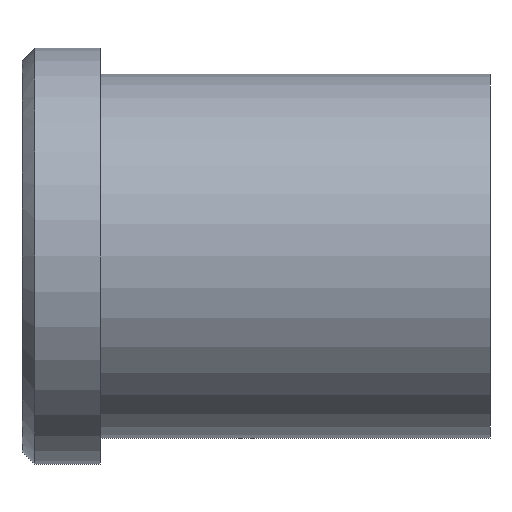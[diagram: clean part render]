
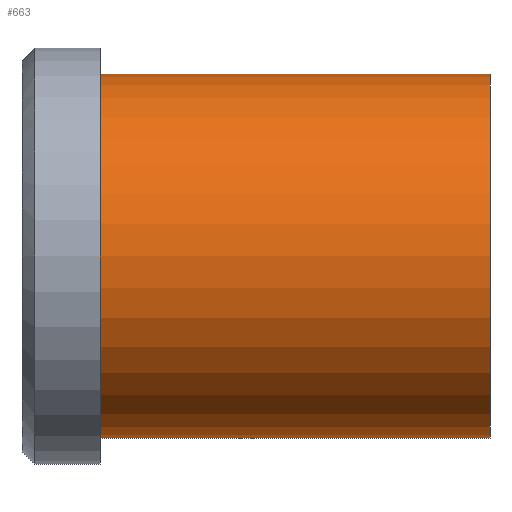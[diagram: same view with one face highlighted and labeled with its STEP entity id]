
A CAD part, front view. The second image highlights one B-rep face of the part: STEP entity #663.
In plain terms, the highlighted cylindrical face has radius 14 mm (diameter 28 mm), a partial arc.
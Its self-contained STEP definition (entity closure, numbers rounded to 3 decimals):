
#501=CARTESIAN_POINT('Vertex',(0.,0.,-14.)) ;
#506=CARTESIAN_POINT('Axis2P3D Location',(0.,0.,0.)) ;
#510=CARTESIAN_POINT('Vertex',(0.,-14.,0.)) ;
#513=CARTESIAN_POINT('Axis2P3D Location',(0.,0.,0.)) ;
#517=CARTESIAN_POINT('Vertex',(0.,0.,14.)) ;
#603=CARTESIAN_POINT('Line Origine',(30.,0.,14.)) ;
#607=CARTESIAN_POINT('Vertex',(30.,0.,14.)) ;
#621=CARTESIAN_POINT('Vertex',(30.,0.,-14.)) ;
#624=CARTESIAN_POINT('Line Origine',(30.,0.,-14.)) ;
#638=CARTESIAN_POINT('Axis2P3D Location',(30.,0.,0.)) ;
#643=CARTESIAN_POINT('Axis2P3D Location',(30.,0.,0.)) ;
#647=CARTESIAN_POINT('Vertex',(30.,-14.,0.)) ;
#650=CARTESIAN_POINT('Axis2P3D Location',(30.,0.,0.)) ;
#507=DIRECTION('Axis2P3D Direction',(1.,0.,-0.)) ;
#514=DIRECTION('Axis2P3D Direction',(1.,0.,-0.)) ;
#604=DIRECTION('Vector Direction',(-1.,0.,0.)) ;
#625=DIRECTION('Vector Direction',(-1.,0.,0.)) ;
#639=DIRECTION('Axis2P3D Direction',(-1.,-0.,-0.)) ;
#640=DIRECTION('Axis2P3D XDirection',(0.,0.,-1.)) ;
#644=DIRECTION('Axis2P3D Direction',(-1.,-0.,-0.)) ;
#651=DIRECTION('Axis2P3D Direction',(-1.,-0.,-0.)) ;
#508=AXIS2_PLACEMENT_3D('Circle Axis2P3D',#506,#507,$) ;
#515=AXIS2_PLACEMENT_3D('Circle Axis2P3D',#513,#514,$) ;
#641=AXIS2_PLACEMENT_3D('Cylinder Axis2P3D',#638,#639,#640) ;
#645=AXIS2_PLACEMENT_3D('Circle Axis2P3D',#643,#644,$) ;
#652=AXIS2_PLACEMENT_3D('Circle Axis2P3D',#650,#651,$) ;
#656=ORIENTED_EDGE('',*,*,#628,.T.) ;
#657=ORIENTED_EDGE('',*,*,#649,.F.) ;
#658=ORIENTED_EDGE('',*,*,#654,.F.) ;
#659=ORIENTED_EDGE('',*,*,#609,.T.) ;
#660=ORIENTED_EDGE('',*,*,#519,.T.) ;
#661=ORIENTED_EDGE('',*,*,#512,.T.) ;
#605=VECTOR('Line Direction',#604,1.) ;
#626=VECTOR('Line Direction',#625,1.) ;
#663=ADVANCED_FACE('353-20X36',(#662),#642,.T.) ;
#509=CIRCLE('generated circle',#508,14.) ;
#516=CIRCLE('generated circle',#515,14.) ;
#646=CIRCLE('generated circle',#645,14.) ;
#653=CIRCLE('generated circle',#652,14.) ;
#642=CYLINDRICAL_SURFACE('generated cylinder',#641,14.) ;
#512=EDGE_CURVE('',#511,#502,#509,.T.) ;
#519=EDGE_CURVE('',#518,#511,#516,.T.) ;
#609=EDGE_CURVE('',#608,#518,#606,.T.) ;
#628=EDGE_CURVE('',#502,#622,#627,.F.) ;
#649=EDGE_CURVE('',#648,#622,#646,.F.) ;
#654=EDGE_CURVE('',#608,#648,#653,.F.) ;
#655=EDGE_LOOP('',(#656,#657,#658,#659,#660,#661)) ;
#662=FACE_OUTER_BOUND('',#655,.T.) ;
#606=LINE('Line',#603,#605) ;
#627=LINE('Line',#624,#626) ;
#502=VERTEX_POINT('',#501) ;
#511=VERTEX_POINT('',#510) ;
#518=VERTEX_POINT('',#517) ;
#608=VERTEX_POINT('',#607) ;
#622=VERTEX_POINT('',#621) ;
#648=VERTEX_POINT('',#647) ;
